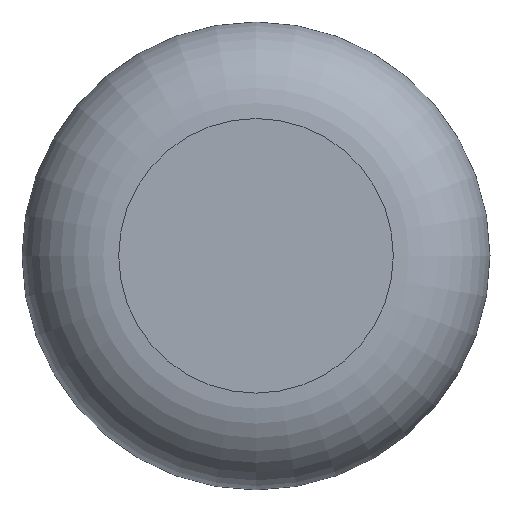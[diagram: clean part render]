
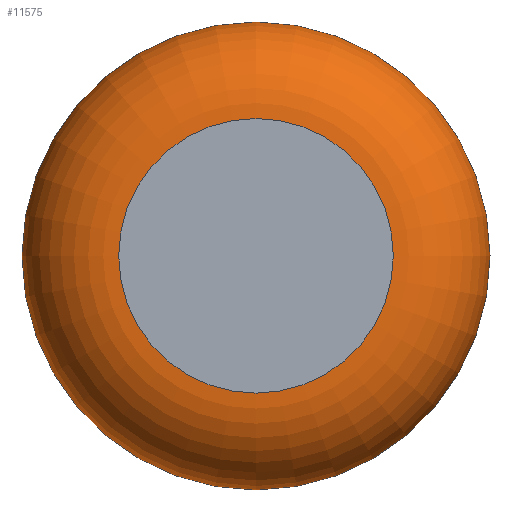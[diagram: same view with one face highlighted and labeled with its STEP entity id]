
A CAD part, top view. The second image highlights one B-rep face of the part: STEP entity #11575.
In plain terms, the highlighted toroidal (fillet/blend) face has major radius 7.1 mm and minor radius 5 mm.
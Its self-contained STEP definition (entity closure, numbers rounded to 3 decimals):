
#1420=TOROIDAL_SURFACE('',#35582,7.1,5.);
#1905=CIRCLE('',#35579,7.1);
#1906=CIRCLE('',#35581,11.894);
#2122=FACE_BOUND('',#15211,.T.);
#2123=FACE_BOUND('',#15212,.T.);
#11575=ADVANCED_FACE('',(#2122,#2123),#1420,.T.);
#15211=EDGE_LOOP('',(#22394));
#15212=EDGE_LOOP('',(#22395));
#22394=ORIENTED_EDGE('',*,*,#28398,.F.);
#22395=ORIENTED_EDGE('',*,*,#28397,.T.);
#24796=VERTEX_POINT('',#68176);
#24797=VERTEX_POINT('',#68179);
#28397=EDGE_CURVE('',#24796,#24796,#1905,.T.);
#28398=EDGE_CURVE('',#24797,#24797,#1906,.T.);
#35579=AXIS2_PLACEMENT_3D('',#68175,#41441,#41442);
#35581=AXIS2_PLACEMENT_3D('',#68178,#41445,#41446);
#35582=AXIS2_PLACEMENT_3D('',#68180,#41447,#41448);
#41441=DIRECTION('',(0.,0.,-1.));
#41442=DIRECTION('',(0.,1.,0.));
#41445=DIRECTION('',(0.,0.,-1.));
#41446=DIRECTION('',(0.,1.,0.));
#41447=DIRECTION('',(0.,0.,-1.));
#41448=DIRECTION('',(0.,1.,0.));
#68175=CARTESIAN_POINT('',(1.28,0.,7.151));
#68176=CARTESIAN_POINT('',(1.28,7.1,7.151));
#68178=CARTESIAN_POINT('',(1.28,0.,0.73));
#68179=CARTESIAN_POINT('',(1.28,11.894,0.73));
#68180=CARTESIAN_POINT('',(1.28,0.,2.151));
